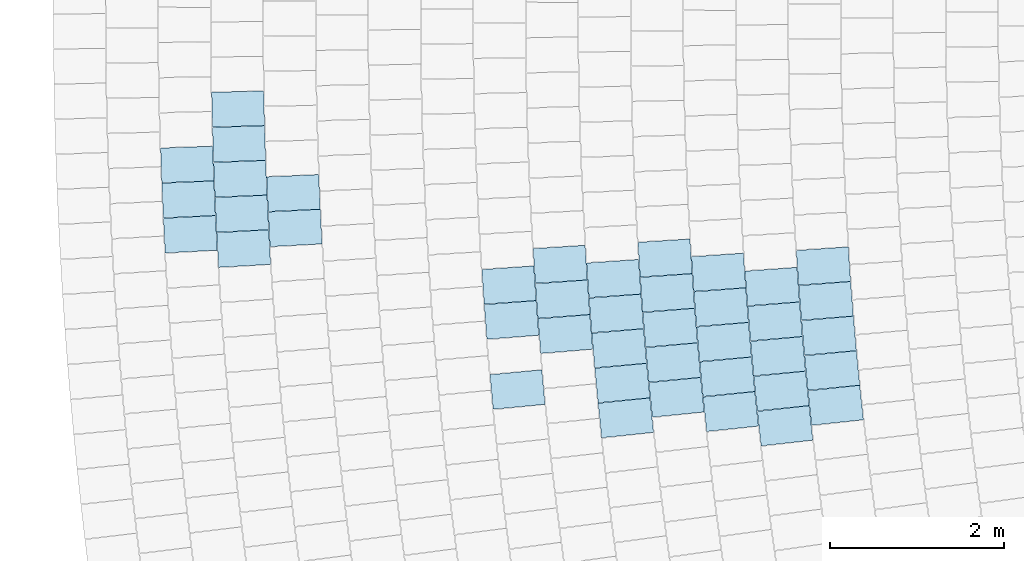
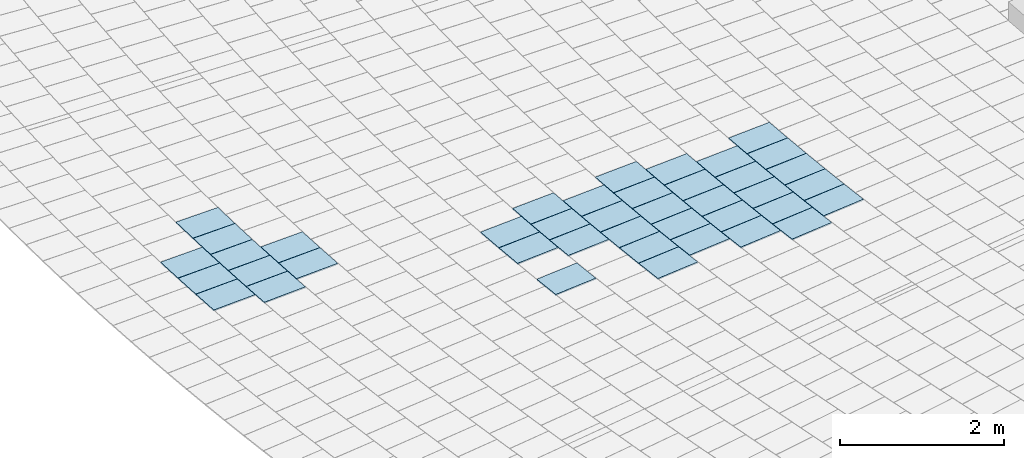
# One storey, part 81 of 438: 41 slabs.
"""IFC2X3 building model written with IfcOpenShell, lengths in millimetres."""

from ifc_helpers import new_model, entity, si_unit, converted_unit, derived_unit, direction, frame, frame_2d, origin, place, context, subcontext, project, spatial, polyline, rectangle, outline, extrude, material, layer, layer_set, layer_usage, type_object, element, save


model = new_model("IFC2X3")

# Units and contexts
model_context = context("Model", 3, precision=0.01, world=origin(), true_north=direction((6.123031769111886e-17, 1.0)))
body_context = subcontext(model_context, "Body", "Model", "MODEL_VIEW")
ifc_project = project(units=[si_unit("LENGTHUNIT", "METRE", prefix="MILLI"), si_unit("AREAUNIT", "SQUARE_METRE"), si_unit("VOLUMEUNIT", "CUBIC_METRE"), converted_unit("PLANEANGLEUNIT", "DEGREE", entity("IfcRatioMeasure", 0.017453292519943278), si_unit("PLANEANGLEUNIT", "RADIAN"), dimensions=[0, 0, 0, 0, 0, 0, 0]), si_unit("MASSUNIT", "GRAM", prefix="KILO"), derived_unit("MASSDENSITYUNIT", [(si_unit("MASSUNIT", "GRAM", prefix="KILO"), 1), (si_unit("LENGTHUNIT", "METRE"), -3)]), derived_unit("MOMENTOFINERTIAUNIT", [(si_unit("LENGTHUNIT", "METRE"), 4)]), si_unit("TIMEUNIT", "SECOND"), si_unit("FREQUENCYUNIT", "HERTZ"), si_unit("THERMODYNAMICTEMPERATUREUNIT", "DEGREE_CELSIUS"), derived_unit("THERMALTRANSMITTANCEUNIT", [(si_unit("MASSUNIT", "GRAM", prefix="KILO"), 1), (si_unit("THERMODYNAMICTEMPERATUREUNIT", "KELVIN"), -1), (si_unit("TIMEUNIT", "SECOND"), -3)]), derived_unit("THERMALCONDUCTANCEUNIT", [(si_unit("MASSUNIT", "GRAM", prefix="KILO"), 1), (si_unit("LENGTHUNIT", "METRE"), 1), (si_unit("THERMODYNAMICTEMPERATUREUNIT", "KELVIN"), -1), (si_unit("TIMEUNIT", "SECOND"), -3)]), derived_unit("VOLUMETRICFLOWRATEUNIT", [(si_unit("LENGTHUNIT", "METRE"), 3), (si_unit("TIMEUNIT", "SECOND"), -1)]), derived_unit("MASSFLOWRATEUNIT", [(si_unit("MASSUNIT", "GRAM", prefix="KILO"), 1), (si_unit("TIMEUNIT", "SECOND"), -1)]), derived_unit("ROTATIONALFREQUENCYUNIT", [(si_unit("TIMEUNIT", "SECOND"), -1)]), si_unit("ELECTRICCURRENTUNIT", "AMPERE"), si_unit("ELECTRICVOLTAGEUNIT", "VOLT"), si_unit("POWERUNIT", "WATT"), converted_unit("FORCEUNIT", "KIP", entity("IfcRatioMeasure", 2.088543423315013e-05), si_unit("FORCEUNIT", "NEWTON"), dimensions=[1, 1, -2, 0, 0, 0, 0]), si_unit("ILLUMINANCEUNIT", "LUX"), si_unit("LUMINOUSFLUXUNIT", "LUMEN"), si_unit("LUMINOUSINTENSITYUNIT", "CANDELA"), derived_unit("USERDEFINED", [(si_unit("MASSUNIT", "GRAM", prefix="KILO"), -1), (si_unit("LENGTHUNIT", "METRE"), -2), (si_unit("TIMEUNIT", "SECOND"), 3), (si_unit("LUMINOUSFLUXUNIT", "LUMEN"), 1)]), derived_unit("USERDEFINED", [(si_unit("MASSUNIT", "GRAM", prefix="KILO"), 1), (si_unit("LENGTHUNIT", "METRE"), 3), (si_unit("TIMEUNIT", "SECOND"), -3), (si_unit("ELECTRICCURRENTUNIT", "AMPERE"), -2)]), derived_unit("USERDEFINED", [(si_unit("LENGTHUNIT", "METRE"), 2), (si_unit("TIMEUNIT", "SECOND"), -2)]), derived_unit("SOUNDPOWERUNIT", [(si_unit("MASSUNIT", "GRAM", prefix="KILO"), 1), (si_unit("LENGTHUNIT", "METRE"), 2), (si_unit("TIMEUNIT", "SECOND"), -3)]), derived_unit("SOUNDPRESSUREUNIT", [(si_unit("MASSUNIT", "GRAM", prefix="KILO"), 1), (si_unit("LENGTHUNIT", "METRE"), -1), (si_unit("TIMEUNIT", "SECOND"), -2)]), derived_unit("LINEARVELOCITYUNIT", [(si_unit("LENGTHUNIT", "METRE"), 1), (si_unit("TIMEUNIT", "SECOND"), -1)]), si_unit("PRESSUREUNIT", "PASCAL"), derived_unit("USERDEFINED", [(si_unit("LENGTHUNIT", "METRE"), -2), (si_unit("MASSUNIT", "GRAM", prefix="KILO"), 1), (si_unit("TIMEUNIT", "SECOND"), -2)]), derived_unit("LINEARFORCEUNIT", [(si_unit("MASSUNIT", "GRAM", prefix="KILO"), 1), (si_unit("LENGTHUNIT", "METRE"), 1), (si_unit("TIMEUNIT", "SECOND"), -2), (si_unit("LENGTHUNIT", "METRE"), -1)]), derived_unit("PLANARFORCEUNIT", [(si_unit("MASSUNIT", "GRAM", prefix="KILO"), 1), (si_unit("LENGTHUNIT", "METRE"), 1), (si_unit("TIMEUNIT", "SECOND"), -2), (si_unit("LENGTHUNIT", "METRE"), -2)]), derived_unit("SPECIFICHEATCAPACITYUNIT", [(si_unit("LENGTHUNIT", "METRE"), 2), (si_unit("TIMEUNIT", "SECOND"), -2), (si_unit("THERMODYNAMICTEMPERATUREUNIT", "KELVIN"), -1)]), derived_unit("VAPORPERMEABILITYUNIT", [(si_unit("TIMEUNIT", "SECOND"), 1), (si_unit("LENGTHUNIT", "METRE"), -1)]), derived_unit("DYNAMICVISCOSITYUNIT", [(si_unit("MASSUNIT", "GRAM", prefix="KILO"), 1), (si_unit("LENGTHUNIT", "METRE"), -1), (si_unit("TIMEUNIT", "SECOND"), -1)]), derived_unit("THERMALEXPANSIONCOEFFICIENTUNIT", [(si_unit("THERMODYNAMICTEMPERATUREUNIT", "KELVIN"), -1)])], contexts=[model_context])

# Site, building, storey
site_placement = place(None, frame((0.0, 0.0, 0.0), z_axis=(0.0, 0.0, 1.0), x_axis=(0.8191520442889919, 0.5735764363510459, 0.0)))
site = spatial("IfcSite", under=ifc_project, at=site_placement, Name="Default", CompositionType="ELEMENT")
building_placement = place(site_placement, origin())
building = spatial("IfcBuilding", under=site, at=building_placement, CompositionType="ELEMENT")
storey_placement = place(building_placement, origin())
storey = spatial("IfcBuildingStorey", under=building, at=storey_placement, Name="PLAN", CompositionType="ELEMENT", Elevation=0.0)

# Slabs
ifc_material = material(Name="Paint-01")
ifc_layer = layer(ifc_material, 20.00000000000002)
ifc_layer_set = layer_set([ifc_layer], Name="Floor:Slab-179:1000")
ifc_layer_usage = layer_usage(ifc_layer_set, "AXIS3", "POSITIVE", 0.0)
slab_type = type_object("IfcSlabType", Name="Floor:Slab-179:1000", PredefinedType="FLOOR", material=ifc_layer_set)
slab_1_placement = place(storey_placement, origin())
element("IfcSlab", 1, at=slab_1_placement, inside=storey, type_object=slab_type, material=ifc_layer_usage, Name="Floor:Slab-179:1000", ObjectType="Floor:Slab-179:1000", PredefinedType="FLOOR", context=body_context, shape_type="SweptSolid", body=[
    extrude(outline(polyline([(-300.0, -200.00000294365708), (299.9999976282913, -200.00000294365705), (300.0, 200.00000294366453), (-299.99999762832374, 200.00000294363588), (-300.0, -200.00000294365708)])), frame((-79601.3219584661, -45002.35553189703, 520.0), z_axis=(0.0, 0.0, -1.0), x_axis=(0.8634690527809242, -0.5044018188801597, 0.0)), (0.0, 0.0, 1.0), 19.99999999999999),
])
slab_2_placement = place(storey_placement, origin())
element("IfcSlab", 2, at=slab_2_placement, inside=storey, type_object=slab_type, material=ifc_layer_usage, Name="Floor:Slab-179:1000", ObjectType="Floor:Slab-179:1000", PredefinedType="FLOOR", context=body_context, shape_type="SweptSolid", body=[
    extrude(outline(polyline([(-300.0, -200.00000294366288), (299.9999976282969, -200.00000294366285), (300.0, 200.00000294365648), (-299.9999976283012, 200.00000294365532), (-300.0, -200.00000294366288)])), frame((-79802.87940592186, -45350.92810642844, 520.0), z_axis=(0.0, 0.0, -1.0), x_axis=(0.8678998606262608, -0.4967391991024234, 0.0)), (0.0, 0.0, 1.0), 20.000000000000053),
])
slab_3_placement = place(storey_placement, origin())
element("IfcSlab", 3, at=slab_3_placement, inside=storey, type_object=slab_type, material=ifc_layer_usage, Name="Floor:Slab-179:1000", ObjectType="Floor:Slab-179:1000", PredefinedType="FLOOR", context=body_context, shape_type="SweptSolid", body=[
    extrude(outline(polyline([(-300.0, -200.00000294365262), (299.99999762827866, -200.00000294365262), (300.0, 200.00000294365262), (-299.99999762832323, 200.00000294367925), (-300.0, -200.00000294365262)])), frame((-79396.68707153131, -44655.580666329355, 520.0), z_axis=(0.0, 0.0, -1.0), x_axis=(0.8589705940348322, -0.5120249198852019, 0.0)), (0.0, 0.0, 1.0), 20.000000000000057),
])
slab_4_placement = place(storey_placement, origin())
element("IfcSlab", 4, at=slab_4_placement, inside=storey, type_object=slab_type, material=ifc_layer_usage, Name="Floor:Slab-179:1000", ObjectType="Floor:Slab-179:1000", PredefinedType="FLOOR", context=body_context, shape_type="SweptSolid", body=[
    extrude(outline(polyline([(-300.0, -200.00000294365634), (299.99999762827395, -200.00000294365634), (300.0, 200.00000294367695), (-299.9999976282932, 200.00000294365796), (-300.0, -200.00000294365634)])), frame((-79188.99077781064, -44310.63067877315, 520.0), z_axis=(0.0, 0.0, -1.0), x_axis=(0.8544048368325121, -0.5196079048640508, 0.0)), (0.0, 0.0, 1.0), 20.000000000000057),
])
slab_5_placement = place(storey_placement, origin())
element("IfcSlab", 5, at=slab_5_placement, inside=storey, type_object=slab_type, material=ifc_layer_usage, Name="Floor:Slab-179:1000", ObjectType="Floor:Slab-179:1000", PredefinedType="FLOOR", context=body_context, shape_type="SweptSolid", body=[
    extrude(outline(polyline([(-300.0, -200.00000294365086), (299.999997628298, -200.00000294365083), (300.0, 200.00000294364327), (-299.9999976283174, 200.0000029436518), (-300.0, -200.00000294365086)])), frame((-80418.27201897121, -45208.92243737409, 520.0), z_axis=(0.0, 0.0, -1.0), x_axis=(0.869859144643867, -0.4933001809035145, 0.0)), (0.0, 0.0, 1.0), 20.000000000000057),
])
slab_6_placement = place(storey_placement, origin())
element("IfcSlab", 6, at=slab_6_placement, inside=storey, type_object=slab_type, material=ifc_layer_usage, Name="Floor:Slab-179:1000", ObjectType="Floor:Slab-179:1000", PredefinedType="FLOOR", context=body_context, shape_type="SweptSolid", body=[
    extrude(outline(polyline([(-300.0, -200.00000294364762), (299.99999762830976, -200.00000294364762), (300.0, 200.00000294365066), (-299.99999762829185, 200.0000029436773), (-300.0, -200.00000294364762)])), frame((-79808.74111340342, -44166.1863357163, 520.0), z_axis=(0.0, 0.0, -1.0), x_axis=(0.8566357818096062, -0.5159216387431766, 0.0)), (0.0, 0.0, 1.0), 20.000000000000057),
])
slab_7_placement = place(storey_placement, origin())
element("IfcSlab", 7, at=slab_7_placement, inside=storey, type_object=slab_type, material=ifc_layer_usage, Name="Floor:Slab-179:1000", ObjectType="Floor:Slab-179:1000", PredefinedType="FLOOR", context=body_context, shape_type="SweptSolid", body=[
    extrude(outline(polyline([(-300.0, -200.0000029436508), (299.99999762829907, -200.0000029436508), (300.0, 200.00000294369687), (-299.9999976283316, 200.00000294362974), (-300.0, -200.0000029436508)])), frame((-80014.95147103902, -44511.98594022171, 520.0), z_axis=(0.0, 0.0, -1.0), x_axis=(0.8611093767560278, -0.5084197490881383, 0.0)), (0.0, 0.0, 1.0), 20.000000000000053),
])
slab_8_placement = place(storey_placement, origin())
element("IfcSlab", 8, at=slab_8_placement, inside=storey, type_object=slab_type, material=ifc_layer_usage, Name="Floor:Slab-179:1000", ObjectType="Floor:Slab-179:1000", PredefinedType="FLOOR", context=body_context, shape_type="SweptSolid", body=[
    extrude(outline(polyline([(-300.0, -200.00000294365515), (299.9999976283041, -200.00000294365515), (300.0, 200.00000294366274), (-299.99999762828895, 200.00000294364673), (-300.0, -200.00000294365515)])), frame((-80615.35143937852, -45560.00615975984, 520.0), z_axis=(0.0, 0.0, -1.0), x_axis=(0.8741346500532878, -0.485683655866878, 0.0)), (0.0, 0.0, 1.0), 20.000000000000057),
])
slab_9_placement = place(storey_placement, origin())
element("IfcSlab", 9, at=slab_9_placement, inside=storey, type_object=slab_type, material=ifc_layer_usage, Name="Floor:Slab-179:1000", ObjectType="Floor:Slab-179:1000", PredefinedType="FLOOR", context=body_context, shape_type="SweptSolid", body=[
    extrude(outline(polyline([(-300.0, -200.00000294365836), (299.9999976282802, -200.00000294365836), (300.0, 200.00000294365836), (-299.9999976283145, 200.0000029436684), (-300.0, -200.00000294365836)])), frame((-80632.51996043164, -44368.76411567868, 520.0), z_axis=(0.0, 0.0, -1.0), x_axis=(0.8631778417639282, -0.5049000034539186, 0.0)), (0.0, 0.0, 1.0), 20.000000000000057),
])
slab_10_placement = place(storey_placement, origin())
element("IfcSlab", 10, at=slab_10_placement, inside=storey, type_object=slab_type, material=ifc_layer_usage, Name="Floor:Slab-179:1000", ObjectType="Floor:Slab-179:1000", PredefinedType="FLOOR", context=body_context, shape_type="SweptSolid", body=[
    extrude(outline(polyline([(-300.0, -200.00000294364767), (299.99999762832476, -200.00000294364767), (300.0, 200.00000294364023), (-299.99999762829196, 200.00000294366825), (-300.0, -200.00000294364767)])), frame((-80220.01984394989, -43677.300306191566, 520.0), z_axis=(0.0, 0.0, -1.0), x_axis=(0.854344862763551, -0.5197065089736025, 0.0)), (0.0, 0.0, 1.0), 20.000000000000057),
])
slab_11_placement = place(storey_placement, origin())
element("IfcSlab", 11, at=slab_11_placement, inside=storey, type_object=slab_type, material=ifc_layer_usage, Name="Floor:Slab-179:1000", ObjectType="Floor:Slab-179:1000", PredefinedType="FLOOR", context=body_context, shape_type="SweptSolid", body=[
    extrude(rectangle(XDim=599.9999696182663, YDim=399.99998737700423, at=frame_2d((-2.1600499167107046e-12, -3.737454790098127e-12), x_axis=(1.0, 0.0))), frame((-79186.93388021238, -45493.31810460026, 520.0), z_axis=(0.0, 0.0, -1.0), x_axis=(0.8660254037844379, -0.5000000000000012, 0.0)), (0.0, 0.0, 1.0), 19.99999999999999),
])
slab_12_placement = place(storey_placement, origin())
element("IfcSlab", 12, at=slab_12_placement, inside=storey, type_object=slab_type, material=ifc_layer_usage, Name="Floor:Slab-179:1000", ObjectType="Floor:Slab-179:1000", PredefinedType="FLOOR", context=body_context, shape_type="SweptSolid", body=[
    extrude(rectangle(XDim=599.9996880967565, YDim=399.99979969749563, at=frame_2d((5.343281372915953e-12, -8.08597633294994e-12), x_axis=(1.0, 0.0))), frame((-80218.46177575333, -44859.735743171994, 520.0), z_axis=(0.0, 0.0, -1.0), x_axis=(0.8660254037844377, -0.5000000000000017, 0.0)), (0.0, 0.0, 1.0), 20.000000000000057),
])
slab_13_placement = place(storey_placement, origin())
element("IfcSlab", 13, at=slab_13_placement, inside=storey, type_object=slab_type, material=ifc_layer_usage, Name="Floor:Slab-179:1000", ObjectType="Floor:Slab-179:1000", PredefinedType="FLOOR", context=body_context, shape_type="SweptSolid", body=[
    extrude(outline(polyline([(-300.0, -200.00000294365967), (299.9999976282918, -200.0000029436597), (300.0, 200.00000294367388), (-299.9999976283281, 200.0000029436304), (-300.0, -200.00000294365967)])), frame((-80001.34362231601, -45701.27108002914, 520.0), z_axis=(0.0, 0.0, -1.0), x_axis=(0.8722626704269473, -0.48903766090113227, 0.0)), (0.0, 0.0, 1.0), 19.999999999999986),
])
slab_14_placement = place(storey_placement, origin())
element("IfcSlab", 14, at=slab_14_placement, inside=storey, type_object=slab_type, material=ifc_layer_usage, Name="Floor:Slab-179:1000", ObjectType="Floor:Slab-179:1000", PredefinedType="FLOOR", context=body_context, shape_type="SweptSolid", body=[
    extrude(outline(polyline([(-300.0, -200.00000294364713), (299.9999976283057, -200.00000294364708), (300.0, 200.00000294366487), (-299.9999976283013, 200.00000294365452), (-300.0, -200.00000294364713)])), frame((-80427.76012593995, -44022.14320205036, 520.0), z_axis=(0.0, 0.0, -1.0), x_axis=(0.8587932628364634, -0.5123222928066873, 0.0)), (0.0, 0.0, 1.0), 19.99999999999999),
])
slab_15_placement = place(storey_placement, origin())
element("IfcSlab", 15, at=slab_15_placement, inside=storey, type_object=slab_type, material=ifc_layer_usage, Name="Floor:Slab-179:1000", ObjectType="Floor:Slab-179:1000", PredefinedType="FLOOR", context=body_context, shape_type="SweptSolid", body=[
    extrude(outline(polyline([(-300.0, -200.00000294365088), (299.9999976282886, -200.00000294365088), (300.0, 200.00000294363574), (-299.9999976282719, 200.00000294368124), (-300.0, -200.00000294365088)])), frame((-78551.57343947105, -46828.54806504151, 520.0), z_axis=(0.0, 0.0, -1.0), x_axis=(0.8753167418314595, -0.48354999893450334, 0.0)), (0.0, 0.0, 1.0), 20.000000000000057),
])
slab_16_placement = place(storey_placement, origin())
element("IfcSlab", 16, at=slab_16_placement, inside=storey, type_object=slab_type, material=ifc_layer_usage, Name="Floor:Slab-179:1000", ObjectType="Floor:Slab-179:1000", PredefinedType="FLOOR", context=body_context, shape_type="SweptSolid", body=[
    extrude(outline(polyline([(-300.0, -200.00000294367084), (299.99999762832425, -200.00000294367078), (300.0, 200.00000294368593), (-299.99999762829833, 200.0000029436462), (-300.0, -200.00000294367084)])), frame((-78355.18284336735, -46476.885016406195, 520.0), z_axis=(0.0, 0.0, -1.0), x_axis=(0.8708201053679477, -0.4916018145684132, 0.0)), (0.0, 0.0, 1.0), 20.000000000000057),
])
slab_17_placement = place(storey_placement, origin())
element("IfcSlab", 17, at=slab_17_placement, inside=storey, type_object=slab_type, material=ifc_layer_usage, Name="Floor:Slab-179:1000", ObjectType="Floor:Slab-179:1000", PredefinedType="FLOOR", context=body_context, shape_type="SweptSolid", body=[
    extrude(rectangle(XDim=599.9999371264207, YDim=399.9999657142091, at=frame_2d((2.1600499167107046e-12, 3.765876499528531e-12), x_axis=(1.0, 0.0))), frame((-78155.41262533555, -46126.97646197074, 520.0), z_axis=(0.0, 0.0, -1.0), x_axis=(0.8660254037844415, -0.4999999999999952, 0.0)), (0.0, 0.0, 1.0), 20.000000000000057),
])
slab_18_placement = place(storey_placement, origin())
element("IfcSlab", 18, at=slab_18_placement, inside=storey, type_object=slab_type, material=ifc_layer_usage, Name="Floor:Slab-179:1000", ObjectType="Floor:Slab-179:1000", PredefinedType="FLOOR", context=body_context, shape_type="SweptSolid", body=[
    extrude(outline(polyline([(-300.0, -200.00000294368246), (299.99999762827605, -200.00000294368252), (300.0, 200.00000294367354), (-299.99999762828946, 200.00000294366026), (-300.0, -200.00000294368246)])), frame((-77746.67063128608, -45432.97142204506, 520.0), z_axis=(0.0, 0.0, -1.0), x_axis=(0.8568873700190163, -0.5155036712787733, 0.0)), (0.0, 0.0, 1.0), 19.99999999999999),
])
slab_19_placement = place(storey_placement, origin())
element("IfcSlab", 19, at=slab_19_placement, inside=storey, type_object=slab_type, material=ifc_layer_usage, Name="Floor:Slab-179:1000", ObjectType="Floor:Slab-179:1000", PredefinedType="FLOOR", context=body_context, shape_type="SweptSolid", body=[
    extrude(outline(polyline([(-300.0, -200.000002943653), (299.99999762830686, -200.00000294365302), (300.0, 200.0000029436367), (-299.99999762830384, 200.0000029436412), (-300.0, -200.000002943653)])), frame((-77952.71432400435, -45779.06701968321, 520.0), z_axis=(0.0, 0.0, -1.0), x_axis=(0.8616050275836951, -0.5075793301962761, 0.0)), (0.0, 0.0, 1.0), 20.000000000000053),
])
slab_20_placement = place(storey_placement, origin())
element("IfcSlab", 20, at=slab_20_placement, inside=storey, type_object=slab_type, material=ifc_layer_usage, Name="Floor:Slab-179:1000", ObjectType="Floor:Slab-179:1000", PredefinedType="FLOOR", context=body_context, shape_type="SweptSolid", body=[
    extrude(outline(polyline([(-300.0, -200.00000294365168), (299.99999762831, -200.00000294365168), (300.0, 200.0000029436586), (-299.9999976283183, 200.00000294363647), (-300.0, -200.00000294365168)])), frame((-79164.57464684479, -46687.73283148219, 520.0), z_axis=(0.0, 0.0, -1.0), x_axis=(0.8772009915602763, -0.48012333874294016, 0.0)), (0.0, 0.0, 1.0), 19.99999999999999),
])
slab_21_placement = place(storey_placement, origin())
element("IfcSlab", 21, at=slab_21_placement, inside=storey, type_object=slab_type, material=ifc_layer_usage, Name="Floor:Slab-179:1000", ObjectType="Floor:Slab-179:1000", PredefinedType="FLOOR", context=body_context, shape_type="SweptSolid", body=[
    extrude(outline(polyline([(-300.0, -200.00000294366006), (299.9999976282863, -200.00000294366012), (300.0, 200.0000029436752), (-299.9999976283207, 200.00000294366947), (-300.0, -200.00000294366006)])), frame((-78969.61279849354, -46335.34556782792, 520.0), z_axis=(0.0, 0.0, -1.0), x_axis=(0.8727980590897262, -0.4880814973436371, 0.0)), (0.0, 0.0, 1.0), 20.000000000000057),
])
slab_22_placement = place(storey_placement, origin())
element("IfcSlab", 22, at=slab_22_placement, inside=storey, type_object=slab_type, material=ifc_layer_usage, Name="Floor:Slab-179:1000", ObjectType="Floor:Slab-179:1000", PredefinedType="FLOOR", context=body_context, shape_type="SweptSolid", body=[
    extrude(outline(polyline([(-300.0, -200.0000029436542), (299.99999762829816, -200.00000294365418), (300.0, 200.00000294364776), (-299.99999762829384, 200.00000294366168), (-300.0, -200.0000029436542)])), frame((-78771.45410242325, -45984.746028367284, 520.0), z_axis=(0.0, 0.0, -1.0), x_axis=(0.8683229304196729, -0.49599928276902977, 0.0)), (0.0, 0.0, 1.0), 20.000000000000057),
])
slab_23_placement = place(storey_placement, origin())
element("IfcSlab", 23, at=slab_23_placement, inside=storey, type_object=slab_type, material=ifc_layer_usage, Name="Floor:Slab-179:1000", ObjectType="Floor:Slab-179:1000", PredefinedType="FLOOR", context=body_context, shape_type="SweptSolid", body=[
    extrude(outline(polyline([(-300.0, -200.00000294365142), (299.99999762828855, -200.0000029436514), (300.0, 200.00000294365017), (-299.9999976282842, 200.00000294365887), (-300.0, -200.00000294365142)])), frame((-78570.11494994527, -45635.963214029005, 520.0), z_axis=(0.0, 0.0, -1.0), x_axis=(0.8637759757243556, -0.5038760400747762, 0.0)), (0.0, 0.0, 1.0), 20.000000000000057),
])
slab_24_placement = place(storey_placement, origin())
element("IfcSlab", 24, at=slab_24_placement, inside=storey, type_object=slab_type, material=ifc_layer_usage, Name="Floor:Slab-179:1000", ObjectType="Floor:Slab-179:1000", PredefinedType="FLOOR", context=body_context, shape_type="SweptSolid", body=[
    extrude(outline(polyline([(-300.0, -200.00000294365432), (299.99999762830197, -200.00000294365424), (300.0, 200.00000294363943), (-299.9999976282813, 200.00000294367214), (-300.0, -200.00000294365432)])), frame((-78365.61199545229, -45289.02597546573, 520.0), z_axis=(0.0, 0.0, -1.0), x_axis=(0.859157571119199, -0.5117111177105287, 0.0)), (0.0, 0.0, 1.0), 19.99999999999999),
])
slab_25_placement = place(storey_placement, origin())
element("IfcSlab", 25, at=slab_25_placement, inside=storey, type_object=slab_type, material=ifc_layer_usage, Name="Floor:Slab-179:1000", ObjectType="Floor:Slab-179:1000", PredefinedType="FLOOR", context=body_context, shape_type="SweptSolid", body=[
    extrude(outline(polyline([(-300.0, -200.00000294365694), (299.999997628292, -200.00000294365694), (300.0, 200.00000294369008), (-299.9999976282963, 200.0000029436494), (-300.0, -200.00000294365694)])), frame((-79386.71925143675, -45842.845920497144, 520.0), z_axis=(0.0, 0.0, -1.0), x_axis=(0.8703264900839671, -0.49247517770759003, 0.0)), (0.0, 0.0, 1.0), 19.99999999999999),
])
slab_26_placement = place(storey_placement, origin())
element("IfcSlab", 26, at=slab_26_placement, inside=storey, type_object=slab_type, material=ifc_layer_usage, Name="Floor:Slab-179:1000", ObjectType="Floor:Slab-179:1000", PredefinedType="FLOOR", context=body_context, shape_type="SweptSolid", body=[
    extrude(outline(polyline([(-300.0, -200.0000029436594), (299.99999762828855, -200.00000294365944), (300.0, 200.0000029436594), (-299.99999762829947, 200.0000029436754), (-300.0, -200.0000029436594)])), frame((-79583.45869929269, -46194.20153245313, 520.0), z_axis=(0.0, 0.0, -1.0), x_axis=(0.8747096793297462, -0.4846472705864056, 0.0)), (0.0, 0.0, 1.0), 20.000000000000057),
])
slab_27_placement = place(storey_placement, origin())
element("IfcSlab", 27, at=slab_27_placement, inside=storey, type_object=slab_type, material=ifc_layer_usage, Name="Floor:Slab-179:1000", ObjectType="Floor:Slab-179:1000", PredefinedType="FLOOR", context=body_context, shape_type="SweptSolid", body=[
    extrude(outline(polyline([(-300.0, -200.00000294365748), (299.99999762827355, -200.00000294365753), (300.0, 200.00000294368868), (-299.99999762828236, 200.0000029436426), (-300.0, -200.00000294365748)])), frame((-78983.82369237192, -45145.50036606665, 520.0), z_axis=(0.0, 0.0, -1.0), x_axis=(0.8613503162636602, -0.5080114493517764, 0.0)), (0.0, 0.0, 1.0), 20.000000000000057),
])
slab_28_placement = place(storey_placement, origin())
element("IfcSlab", 28, at=slab_28_placement, inside=storey, type_object=slab_type, material=ifc_layer_usage, Name="Floor:Slab-179:1000", ObjectType="Floor:Slab-179:1000", PredefinedType="FLOOR", context=body_context, shape_type="SweptSolid", body=[
    extrude(outline(polyline([(-300.0, -200.0000029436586), (299.99999762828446, -200.0000029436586), (300.0, 200.00000294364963), (-299.9999976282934, 200.00000294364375), (-300.0, -200.0000029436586)])), frame((-78777.70000961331, -44799.566551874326, 520.0), z_axis=(0.0, 0.0, -1.0), x_axis=(0.8567580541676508, -0.5157185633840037, 0.0)), (0.0, 0.0, 1.0), 19.99999999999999),
])
slab_29_placement = place(storey_placement, origin())
element("IfcSlab", 29, at=slab_29_placement, inside=storey, type_object=slab_type, material=ifc_layer_usage, Name="Floor:Slab-179:1000", ObjectType="Floor:Slab-179:1000", PredefinedType="FLOOR", context=body_context, shape_type="SweptSolid", body=[
    extrude(outline(polyline([(-300.0, -200.0000029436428), (299.99999762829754, -200.00000294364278), (300.0, 200.00000294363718), (-299.99999762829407, 200.00000294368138), (-300.0, -200.0000029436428)])), frame((-83103.74151628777, -41436.439804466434, 520.0), z_axis=(0.0, 0.0, -1.0), x_axis=(0.850022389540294, -0.5267465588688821, 0.0)), (0.0, 0.0, 1.0), 19.99999999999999),
])
slab_30_placement = place(storey_placement, origin())
element("IfcSlab", 30, at=slab_30_placement, inside=storey, type_object=slab_type, material=ifc_layer_usage, Name="Floor:Slab-179:1000", ObjectType="Floor:Slab-179:1000", PredefinedType="FLOOR", context=body_context, shape_type="SweptSolid", body=[
    extrude(outline(polyline([(-299.9999976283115, -200.000002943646), (300.0, -200.000002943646), (299.9999976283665, 200.00000294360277), (-300.0, 200.0000029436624), (-299.9999976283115, -200.000002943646)])), frame((-80840.92339888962, -43534.70483987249, 520.0), z_axis=(0.0, 0.0, -1.0), x_axis=(0.8565438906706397, -0.516074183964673, 0.0)), (0.0, 0.0, 1.0), 20.000000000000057),
])
slab_31_placement = place(storey_placement, origin())
element("IfcSlab", 31, at=slab_31_placement, inside=storey, type_object=slab_type, material=ifc_layer_usage, Name="Floor:Slab-179:1000", ObjectType="Floor:Slab-179:1000", PredefinedType="FLOOR", context=body_context, shape_type="SweptSolid", body=[
    extrude(outline(polyline([(-299.9999976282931, -200.00000294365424), (300.0, -200.00000294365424), (299.9999976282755, 200.0000029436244), (-300.0, 200.00000294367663), (-299.9999976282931, -200.00000294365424)])), frame((-81047.19974110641, -43880.38676746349, 520.0), z_axis=(0.0, 0.0, -1.0), x_axis=(0.8609044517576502, -0.5087666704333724, 0.0)), (0.0, 0.0, 1.0), 20.000000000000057),
])
slab_32_placement = place(storey_placement, origin())
element("IfcSlab", 32, at=slab_32_placement, inside=storey, type_object=slab_type, material=ifc_layer_usage, Name="Floor:Slab-179:1000", ObjectType="Floor:Slab-179:1000", PredefinedType="FLOOR", context=body_context, shape_type="SweptSolid", body=[
    extrude(outline(polyline([(-299.9999976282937, -200.0000029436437), (300.0, -200.0000029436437), (299.99999762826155, 200.0000029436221), (-300.0, 200.0000029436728), (-299.9999976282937, -200.0000029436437)])), frame((-81450.89047263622, -44576.95389023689, 520.0), z_axis=(0.0, 0.0, -1.0), x_axis=(0.8694382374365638, -0.4940416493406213, 0.0)), (0.0, 0.0, 1.0), 20.000000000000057),
])
slab_33_placement = place(storey_placement, origin())
element("IfcSlab", 33, at=slab_33_placement, inside=storey, type_object=slab_type, material=ifc_layer_usage, Name="Floor:Slab-179:1000", ObjectType="Floor:Slab-179:1000", PredefinedType="FLOOR", context=body_context, shape_type="SweptSolid", body=[
    extrude(outline(polyline([(-300.0, -200.00000294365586), (299.9999976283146, -200.0000029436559), (300.0, 200.00000294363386), (-299.9999976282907, 200.00000294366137), (-300.0, -200.00000294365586)])), frame((-82481.85394388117, -41582.23790891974, 520.0), z_axis=(0.0, 0.0, -1.0), x_axis=(0.8478580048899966, -0.5302233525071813, 0.0)), (0.0, 0.0, 1.0), 20.000000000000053),
])
slab_34_placement = place(storey_placement, origin())
element("IfcSlab", 34, at=slab_34_placement, inside=storey, type_object=slab_type, material=ifc_layer_usage, Name="Floor:Slab-179:1000", ObjectType="Floor:Slab-179:1000", PredefinedType="FLOOR", context=body_context, shape_type="SweptSolid", body=[
    extrude(outline(polyline([(-300.0, -200.00000294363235), (299.99999762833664, -200.00000294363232), (300.0, 200.00000294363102), (-299.9999976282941, 200.00000294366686), (-300.0, -200.00000294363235)])), frame((-82267.10009090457, -41241.90517864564, 520.0), z_axis=(0.0, 0.0, -1.0), x_axis=(0.8435391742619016, -0.5370676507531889, 0.0)), (0.0, 0.0, 1.0), 20.000000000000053),
])
slab_35_placement = place(storey_placement, origin())
element("IfcSlab", 35, at=slab_35_placement, inside=storey, type_object=slab_type, material=ifc_layer_usage, Name="Floor:Slab-179:1000", ObjectType="Floor:Slab-179:1000", PredefinedType="FLOOR", context=body_context, shape_type="SweptSolid", body=[
    extrude(outline(polyline([(-300.0, -200.00000294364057), (299.99999762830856, -200.0000029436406), (300.0, 200.0000029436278), (-299.9999976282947, 200.00000294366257), (-300.0, -200.00000294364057)])), frame((-82890.41549430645, -41095.24480561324, 520.0), z_axis=(0.0, 0.0, -1.0), x_axis=(0.8457838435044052, -0.5335257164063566, 0.0)), (0.0, 0.0, 1.0), 20.000000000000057),
])
slab_36_placement = place(storey_placement, origin())
element("IfcSlab", 36, at=slab_36_placement, inside=storey, type_object=slab_type, material=ifc_layer_usage, Name="Floor:Slab-179:1000", ObjectType="Floor:Slab-179:1000", PredefinedType="FLOOR", context=body_context, shape_type="SweptSolid", body=[
    extrude(outline(polyline([(-300.0, -200.0000029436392), (299.99999762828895, -200.00000294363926), (300.0, 200.00000294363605), (-299.99999762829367, 200.00000294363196), (-300.0, -200.0000029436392)])), frame((-82674.36841078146, -40755.76626932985, 520.0), z_axis=(0.0, 0.0, -1.0), x_axis=(0.8414912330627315, -0.5402707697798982, 0.0)), (0.0, 0.0, 1.0), 19.99999999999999),
])
slab_37_placement = place(storey_placement, origin())
element("IfcSlab", 37, at=slab_37_placement, inside=storey, type_object=slab_type, material=ifc_layer_usage, Name="Floor:Slab-179:1000", ObjectType="Floor:Slab-179:1000", PredefinedType="FLOOR", context=body_context, shape_type="SweptSolid", body=[
    extrude(outline(polyline([(-300.0, -200.0000029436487), (299.9999976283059, -200.00000294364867), (300.0, 200.00000294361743), (-299.9999976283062, 200.0000029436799), (-300.0, -200.0000029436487)])), frame((-82455.61407592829, -40418.02589584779, 520.0), z_axis=(0.0, 0.0, -1.0), x_axis=(0.837144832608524, -0.5469812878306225, 0.0)), (0.0, 0.0, 1.0), 20.000000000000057),
])
slab_38_placement = place(storey_placement, origin())
element("IfcSlab", 38, at=slab_38_placement, inside=storey, type_object=slab_type, material=ifc_layer_usage, Name="Floor:Slab-179:1000", ObjectType="Floor:Slab-179:1000", PredefinedType="FLOOR", context=body_context, shape_type="SweptSolid", body=[
    extrude(outline(polyline([(-300.0, -200.00000294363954), (299.9999976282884, -200.0000029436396), (300.0, 200.00000294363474), (-299.9999976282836, 200.0000029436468), (-300.0, -200.00000294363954)])), frame((-82234.16647301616, -40082.045274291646, 520.0), z_axis=(0.0, 0.0, -1.0), x_axis=(0.8327449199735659, -0.5536568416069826, 0.0)), (0.0, 0.0, 1.0), 20.000000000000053),
])
slab_39_placement = place(storey_placement, origin())
element("IfcSlab", 39, at=slab_39_placement, inside=storey, type_object=slab_type, material=ifc_layer_usage, Name="Floor:Slab-179:1000", ObjectType="Floor:Slab-179:1000", PredefinedType="FLOOR", context=body_context, shape_type="SweptSolid", body=[
    extrude(outline(polyline([(-300.0, -200.00000294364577), (299.99999762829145, -200.00000294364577), (300.0, 200.0000029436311), (-299.9999976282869, 200.00000294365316), (-300.0, -200.00000294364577)])), frame((-83512.9842748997, -40949.01996280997, 520.0), z_axis=(0.0, 0.0, -1.0), x_axis=(0.8479605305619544, -0.5300593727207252, 0.0)), (0.0, 0.0, 1.0), 20.000000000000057),
])
slab_40_placement = place(storey_placement, origin())
element("IfcSlab", 40, at=slab_40_placement, inside=storey, type_object=slab_type, material=ifc_layer_usage, Name="Floor:Slab-179:1000", ObjectType="Floor:Slab-179:1000", PredefinedType="FLOOR", context=body_context, shape_type="SweptSolid", body=[
    extrude(outline(polyline([(-300.0, -200.00000294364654), (299.9999976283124, -200.00000294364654), (300.0, 200.0000029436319), (-299.9999976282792, 200.00000294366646), (-300.0, -200.00000294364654)])), frame((-83298.36002223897, -40608.673892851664, 520.0), z_axis=(0.0, 0.0, -1.0), x_axis=(0.8437468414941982, -0.5367413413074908, 0.0)), (0.0, 0.0, 1.0), 20.000000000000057),
])
slab_41_placement = place(storey_placement, origin())
element("IfcSlab", 41, at=slab_41_placement, inside=storey, type_object=slab_type, material=ifc_layer_usage, Name="Floor:Slab-179:1000", ObjectType="Floor:Slab-179:1000", PredefinedType="FLOOR", context=body_context, shape_type="SweptSolid", body=[
    extrude(outline(polyline([(-300.0, -200.00000294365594), (299.99999762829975, -200.00000294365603), (300.0, 200.00000294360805), (-299.9999976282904, 200.00000294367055), (-300.0, -200.00000294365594)])), frame((-83081.05388512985, -40270.03387758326, 520.0), z_axis=(0.0, 0.0, -1.0), x_axis=(0.8394804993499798, -0.5433898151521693, 0.0)), (0.0, 0.0, 1.0), 20.000000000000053),
])

save(model, "model.ifc")
